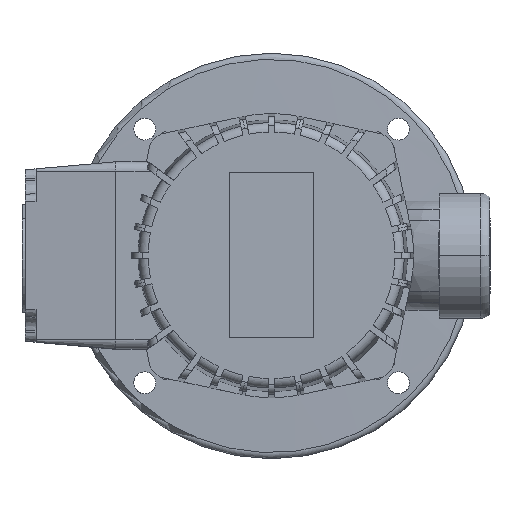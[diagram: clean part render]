
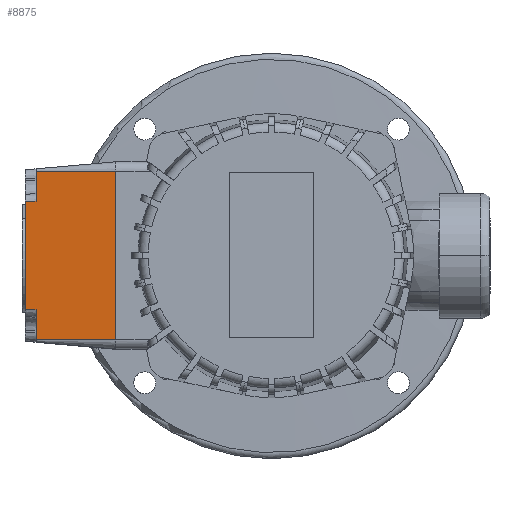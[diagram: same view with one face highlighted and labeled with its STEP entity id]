
A CAD part, top view. The second image highlights one B-rep face of the part: STEP entity #8875.
In plain terms, the highlighted planar face has unit normal (-0.087, 0, 0.996).
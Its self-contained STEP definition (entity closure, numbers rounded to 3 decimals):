
#3857=VERTEX_POINT('',#10407);
#4055=EDGE_CURVE('',#3857,#6371,#10622,.T.);
#4995=EDGE_CURVE('',#6371,#7623,#11668,.T.);
#5169=EDGE_CURVE('',#9583,#7097,#11858,.T.);
#6357=EDGE_CURVE('',#8003,#7107,#13162,.T.);
#6371=VERTEX_POINT('',#13176);
#7097=VERTEX_POINT('',#13975);
#7107=VERTEX_POINT('',#13987);
#7287=EDGE_CURVE('',#7107,#9583,#14177,.T.);
#7623=VERTEX_POINT('',#14548);
#7985=VERTEX_POINT('',#14941);
#8003=VERTEX_POINT('',#14962);
#8369=EDGE_CURVE('',#8003,#7623,#15364,.T.);
#8523=EDGE_CURVE('',#7097,#7985,#15533,.T.);
#8875=ADVANCED_FACE('',(#15924),#15925,.T.);
#9091=EDGE_CURVE('',#7985,#3857,#16165,.T.);
#9583=VERTEX_POINT('',#16700);
#10407=CARTESIAN_POINT('',(-79.0,-17.326,59.963));
#10622=B_SPLINE_CURVE_WITH_KNOTS('',2,(#18879,#18880,#18881),.UNSPECIFIED.,.F.,.F.,(3,3),(0.0,3.513),.UNSPECIFIED.);
#11668=LINE('',#21250,#21251);
#11858=LINE('',#21763,#21764);
#13162=LINE('',#24252,#24253);
#13176=CARTESIAN_POINT('',(-75.5,-17.353,60.269));
#13975=CARTESIAN_POINT('',(-75.5,17.353,60.269));
#13987=CARTESIAN_POINT('',(-50.0,27.0,62.5));
#14177=LINE('',#26486,#26487);
#14548=CARTESIAN_POINT('',(-75.5,-27.0,60.269));
#14941=CARTESIAN_POINT('',(-79.0,17.326,59.963));
#14962=CARTESIAN_POINT('',(-50.0,-27.0,62.5));
#15364=LINE('',#29023,#29024);
#15533=B_SPLINE_CURVE_WITH_KNOTS('',2,(#29445,#29446,#29447),.UNSPECIFIED.,.F.,.F.,(3,3),(0.0,3.513),.UNSPECIFIED.);
#15924=FACE_OUTER_BOUND('',#30168,.T.);
#15925=PLANE('',#30169);
#16165=LINE('',#30703,#30704);
#16700=CARTESIAN_POINT('',(-75.5,27.0,60.269));
#18879=CARTESIAN_POINT('',(-79.0,-17.326,59.963));
#18880=CARTESIAN_POINT('',(-77.297,-17.339,60.112));
#18881=CARTESIAN_POINT('',(-75.5,-17.353,60.269));
#21250=CARTESIAN_POINT('',(-75.5,1.189,60.269));
#21251=VECTOR('',#34291,1.0);
#21763=CARTESIAN_POINT('',(-75.5,25.811,60.269));
#21764=VECTOR('',#34490,1.0);
#24252=CARTESIAN_POINT('',(-50.0,-27.0,62.5));
#24253=VECTOR('',#35889,1.0);
#26486=CARTESIAN_POINT('',(-50.0,27.0,62.5));
#26487=VECTOR('',#36977,1.0);
#29023=CARTESIAN_POINT('',(-50.0,-27.0,62.5));
#29024=VECTOR('',#38323,1.0);
#29445=CARTESIAN_POINT('',(-75.5,17.353,60.269));
#29446=CARTESIAN_POINT('',(-77.297,17.339,60.112));
#29447=CARTESIAN_POINT('',(-79.0,17.326,59.963));
#30168=EDGE_LOOP('',(#39092,#39093,#39094,#39095,#39096,#39097,#39098,#39099));
#30169=AXIS2_PLACEMENT_3D('',#39100,#39101,#39102);
#30703=CARTESIAN_POINT('',(-79.0,-27.0,59.963));
#30704=VECTOR('',#39388,1.0);
#34291=DIRECTION('',(0.0,-1.0,0.0));
#34490=DIRECTION('',(0.0,-1.0,0.0));
#35889=DIRECTION('',(0.0,1.0,0.0));
#36977=DIRECTION('',(-0.996,0.0,-0.087));
#38323=DIRECTION('',(-0.996,0.,-0.087));
#39092=ORIENTED_EDGE('',*,*,#4995,.T.);
#39093=ORIENTED_EDGE('',*,*,#8369,.F.);
#39094=ORIENTED_EDGE('',*,*,#6357,.T.);
#39095=ORIENTED_EDGE('',*,*,#7287,.T.);
#39096=ORIENTED_EDGE('',*,*,#5169,.T.);
#39097=ORIENTED_EDGE('',*,*,#8523,.T.);
#39098=ORIENTED_EDGE('',*,*,#9091,.T.);
#39099=ORIENTED_EDGE('',*,*,#4055,.T.);
#39100=CARTESIAN_POINT('',(-50.0,27.0,62.5));
#39101=DIRECTION('',(-0.087,0.0,0.996));
#39102=DIRECTION('',(0.0,1.0,0.0));
#39388=DIRECTION('',(0.0,-1.0,0.0));
